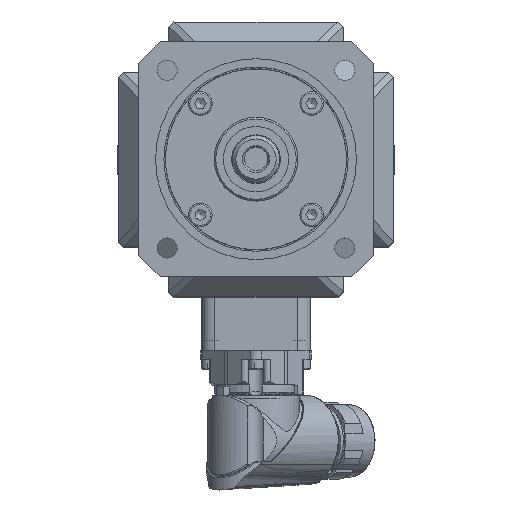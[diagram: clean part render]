
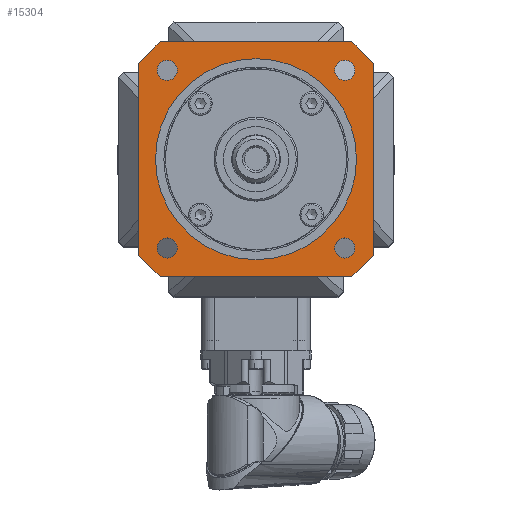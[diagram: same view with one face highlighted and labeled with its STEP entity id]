
A CAD part, top view. The second image highlights one B-rep face of the part: STEP entity #15304.
In plain terms, the highlighted planar face has unit normal (0, 0, 1).
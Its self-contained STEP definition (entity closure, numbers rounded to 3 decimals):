
#1365=LINE('',#22451,#2646);
#1368=LINE('',#22458,#2649);
#1371=LINE('',#22464,#2652);
#1375=LINE('',#22472,#2656);
#1377=LINE('',#22476,#2658);
#1378=LINE('',#22478,#2659);
#1379=LINE('',#22480,#2660);
#1380=LINE('',#22481,#2661);
#2646=VECTOR('',#18504,57.279);
#2649=VECTOR('',#18511,8.995);
#2652=VECTOR('',#18516,57.279);
#2656=VECTOR('',#18524,8.995);
#2658=VECTOR('',#18528,8.995);
#2659=VECTOR('',#18529,57.279);
#2660=VECTOR('',#18530,8.995);
#2661=VECTOR('',#18531,57.279);
#3594=PLANE('',#16267);
#3909=FACE_BOUND('',#5293,.T.);
#3910=FACE_BOUND('',#5294,.T.);
#3911=FACE_BOUND('',#5295,.T.);
#3912=FACE_BOUND('',#5296,.T.);
#3913=FACE_BOUND('',#5297,.T.);
#4357=FACE_OUTER_BOUND('',#5292,.T.);
#5292=EDGE_LOOP('',(#11277,#11278,#11279,#11280,#11281,#11282,#11283,#11284));
#5293=EDGE_LOOP('',(#11285));
#5294=EDGE_LOOP('',(#11286));
#5295=EDGE_LOOP('',(#11287));
#5296=EDGE_LOOP('',(#11288));
#5297=EDGE_LOOP('',(#11289));
#6046=CIRCLE('',#16243,3.);
#6048=CIRCLE('',#16246,3.);
#6050=CIRCLE('',#16249,3.);
#6052=CIRCLE('',#16252,3.);
#6055=CIRCLE('',#16257,30.);
#6824=VERTEX_POINT('',#22408);
#6826=VERTEX_POINT('',#22413);
#6828=VERTEX_POINT('',#22418);
#6830=VERTEX_POINT('',#22423);
#6833=VERTEX_POINT('',#22431);
#6837=VERTEX_POINT('',#22443);
#6840=VERTEX_POINT('',#22449);
#6842=VERTEX_POINT('',#22457);
#6844=VERTEX_POINT('',#22462);
#6846=VERTEX_POINT('',#22471);
#6847=VERTEX_POINT('',#22475);
#6848=VERTEX_POINT('',#22477);
#6849=VERTEX_POINT('',#22479);
#8475=EDGE_CURVE('',#6824,#6824,#6046,.T.);
#8477=EDGE_CURVE('',#6826,#6826,#6048,.T.);
#8479=EDGE_CURVE('',#6828,#6828,#6050,.T.);
#8481=EDGE_CURVE('',#6830,#6830,#6052,.T.);
#8484=EDGE_CURVE('',#6833,#6833,#6055,.T.);
#8493=EDGE_CURVE('',#6840,#6837,#1365,.T.);
#8496=EDGE_CURVE('',#6840,#6842,#1368,.T.);
#8499=EDGE_CURVE('',#6844,#6842,#1371,.T.);
#8503=EDGE_CURVE('',#6844,#6846,#1375,.T.);
#8505=EDGE_CURVE('',#6847,#6837,#1377,.T.);
#8506=EDGE_CURVE('',#6848,#6846,#1378,.T.);
#8507=EDGE_CURVE('',#6848,#6849,#1379,.T.);
#8508=EDGE_CURVE('',#6847,#6849,#1380,.T.);
#11277=ORIENTED_EDGE('',*,*,#8505,.T.);
#11278=ORIENTED_EDGE('',*,*,#8493,.F.);
#11279=ORIENTED_EDGE('',*,*,#8496,.T.);
#11280=ORIENTED_EDGE('',*,*,#8499,.F.);
#11281=ORIENTED_EDGE('',*,*,#8503,.T.);
#11282=ORIENTED_EDGE('',*,*,#8506,.F.);
#11283=ORIENTED_EDGE('',*,*,#8507,.T.);
#11284=ORIENTED_EDGE('',*,*,#8508,.F.);
#11285=ORIENTED_EDGE('',*,*,#8481,.T.);
#11286=ORIENTED_EDGE('',*,*,#8479,.T.);
#11287=ORIENTED_EDGE('',*,*,#8477,.T.);
#11288=ORIENTED_EDGE('',*,*,#8475,.T.);
#11289=ORIENTED_EDGE('',*,*,#8484,.T.);
#15304=ADVANCED_FACE('',(#4357,#3909,#3910,#3911,#3912,#3913),#3594,.F.);
#16243=AXIS2_PLACEMENT_3D('',#22409,#18459,#18460);
#16246=AXIS2_PLACEMENT_3D('',#22414,#18465,#18466);
#16249=AXIS2_PLACEMENT_3D('',#22419,#18471,#18472);
#16252=AXIS2_PLACEMENT_3D('',#22424,#18477,#18478);
#16257=AXIS2_PLACEMENT_3D('',#22432,#18487,#18488);
#16267=AXIS2_PLACEMENT_3D('',#22474,#18526,#18527);
#18459=DIRECTION('center_axis',(0.,0.,-1.));
#18460=DIRECTION('ref_axis',(-1.,0.,0.));
#18465=DIRECTION('center_axis',(0.,0.,-1.));
#18466=DIRECTION('ref_axis',(-1.,0.,0.));
#18471=DIRECTION('center_axis',(0.,0.,-1.));
#18472=DIRECTION('ref_axis',(-1.,0.,0.));
#18477=DIRECTION('center_axis',(0.,0.,-1.));
#18478=DIRECTION('ref_axis',(-1.,0.,0.));
#18487=DIRECTION('center_axis',(0.,0.,-1.));
#18488=DIRECTION('ref_axis',(-1.,0.,0.));
#18504=DIRECTION('',(0.,-1.,0.));
#18511=DIRECTION('',(-0.707,0.707,0.));
#18516=DIRECTION('',(1.,0.,0.));
#18524=DIRECTION('',(-0.707,-0.707,0.));
#18526=DIRECTION('center_axis',(0.,0.,-1.));
#18527=DIRECTION('ref_axis',(-1.,0.,0.));
#18528=DIRECTION('',(0.707,0.707,0.));
#18529=DIRECTION('',(0.,1.,0.));
#18530=DIRECTION('',(0.707,-0.707,0.));
#18531=DIRECTION('',(-1.,0.,0.));
#22408=CARTESIAN_POINT('',(-26.517,29.517,0.));
#22409=CARTESIAN_POINT('Origin',(-26.517,26.517,0.));
#22413=CARTESIAN_POINT('',(26.517,-23.517,0.));
#22414=CARTESIAN_POINT('Origin',(26.517,-26.517,0.));
#22418=CARTESIAN_POINT('',(26.517,29.517,0.));
#22419=CARTESIAN_POINT('Origin',(26.517,26.517,0.));
#22423=CARTESIAN_POINT('',(-26.517,-23.517,0.));
#22424=CARTESIAN_POINT('Origin',(-26.517,-26.517,0.));
#22431=CARTESIAN_POINT('',(-30.,0.,0.));
#22432=CARTESIAN_POINT('Origin',(0.,0.,
0.));
#22443=CARTESIAN_POINT('',(35.,-28.64,0.));
#22449=CARTESIAN_POINT('',(35.,28.64,0.));
#22451=CARTESIAN_POINT('',(35.,-9.758,0.));
#22457=CARTESIAN_POINT('',(28.64,35.,0.));
#22458=CARTESIAN_POINT('',(33.838,29.801,0.));
#22462=CARTESIAN_POINT('',(-28.64,35.,0.));
#22464=CARTESIAN_POINT('',(9.758,35.,0.));
#22471=CARTESIAN_POINT('',(-35.,28.64,0.));
#22472=CARTESIAN_POINT('',(-29.801,33.838,0.));
#22474=CARTESIAN_POINT('Origin',(0.,0.,
0.));
#22475=CARTESIAN_POINT('',(28.64,-35.,0.));
#22476=CARTESIAN_POINT('',(29.801,-33.838,0.));
#22477=CARTESIAN_POINT('',(-35.,-28.64,0.));
#22478=CARTESIAN_POINT('',(-35.,9.758,0.));
#22479=CARTESIAN_POINT('',(-28.64,-35.,0.));
#22480=CARTESIAN_POINT('',(-33.838,-29.801,0.));
#22481=CARTESIAN_POINT('',(-9.758,-35.,0.));
